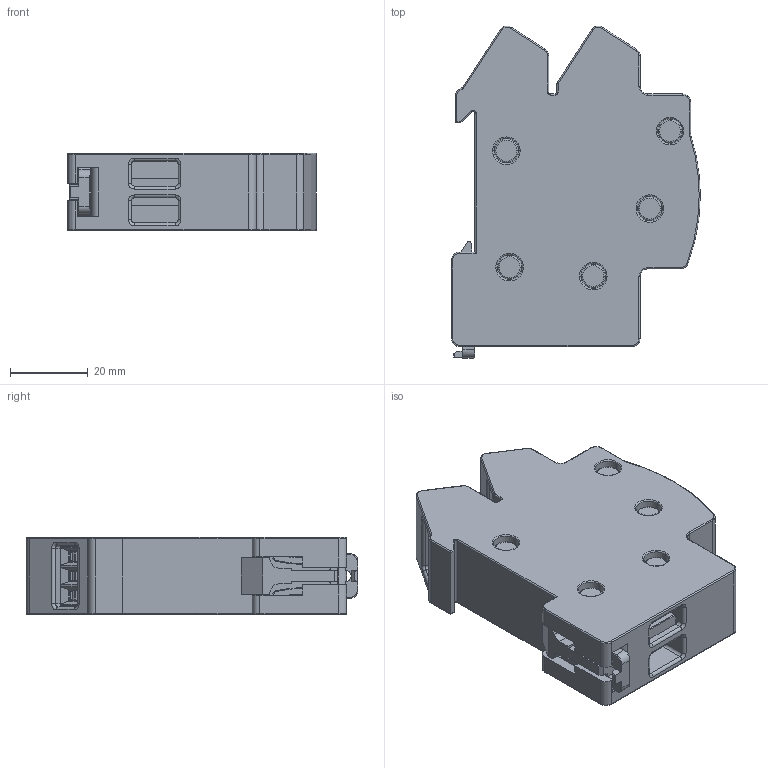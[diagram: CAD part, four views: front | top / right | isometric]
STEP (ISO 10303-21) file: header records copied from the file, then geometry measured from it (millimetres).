
FILE_DESCRIPTION (( 'STEP AP214' ), '1' );
FILE_NAME ('Á1.STEP', '2024-05-23T09:41:49', ( '' ), ( '' ), 'SwSTEP 2.0', 'SolidWorks 2020', '' );
FILE_SCHEMA (( 'AUTOMOTIVE_DESIGN' ));
Length unit declared in the file: millimetre
Products named in the file (1): ﾁ1
Bounding box: 64 x 85.43 x 19.9 mm (x, y, z)
Volume: 74327.4 mm3; surface area: 25813 mm2
Topology: 7 solids, 12 shells, 1933 faces, 4723 edges, 2774 vertices
Faces by surface type: plane 705, cylinder 676, torus 335, sphere 80, bspline 78, cone 59
Entity records: 64259 total; most frequent: CARTESIAN_POINT 18768, DIRECTION 9803, ORIENTED_EDGE 9358, EDGE_CURVE 4679, AXIS2_PLACEMENT_3D 3641, VERTEX_POINT 2774, LINE 2521, VECTOR 2521
